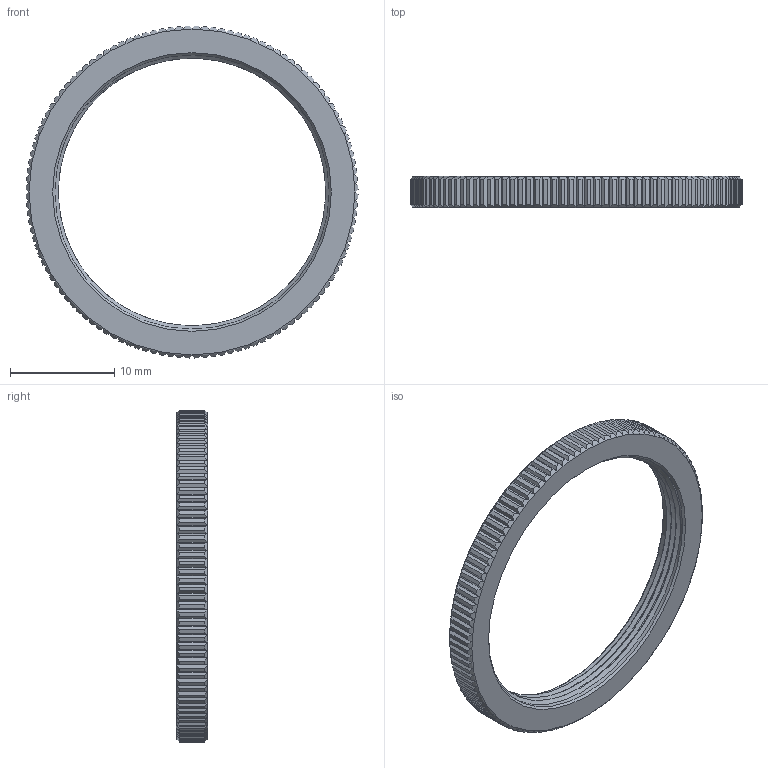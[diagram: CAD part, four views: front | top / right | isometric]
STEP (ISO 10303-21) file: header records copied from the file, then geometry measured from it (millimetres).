
FILE_DESCRIPTION((''),'2;1');
FILE_NAME('CSM1_A2','2020-10-17T',('Administrator'),(''),'CREO PARAMETRIC BY PTC INC, 2017300','CREO PARAMETRIC BY PTC INC, 2017300','');
FILE_SCHEMA(('CONFIG_CONTROL_DESIGN'));
Length unit declared in the file: millimetre
Products named in the file (1): CSM1_A2
Bounding box: 31.8 x 3 x 31.8 mm (x, y, z)
Volume: 745.9 mm3; surface area: 1131.4 mm2
Topology: 1 solids, 1 shells, 383 faces, 1133 edges, 752 vertices
Faces by surface type: plane 242, cylinder 127, cone 8, bspline 6
Entity records: 15011 total; most frequent: CARTESIAN_POINT 5498, ORIENTED_EDGE 2266, DIRECTION 1638, EDGE_CURVE 1133, VERTEX_POINT 752, AXIS2_PLACEMENT_3D 629, B_SPLINE_CURVE_WITH_KNOTS 501, EDGE_LOOP 385
